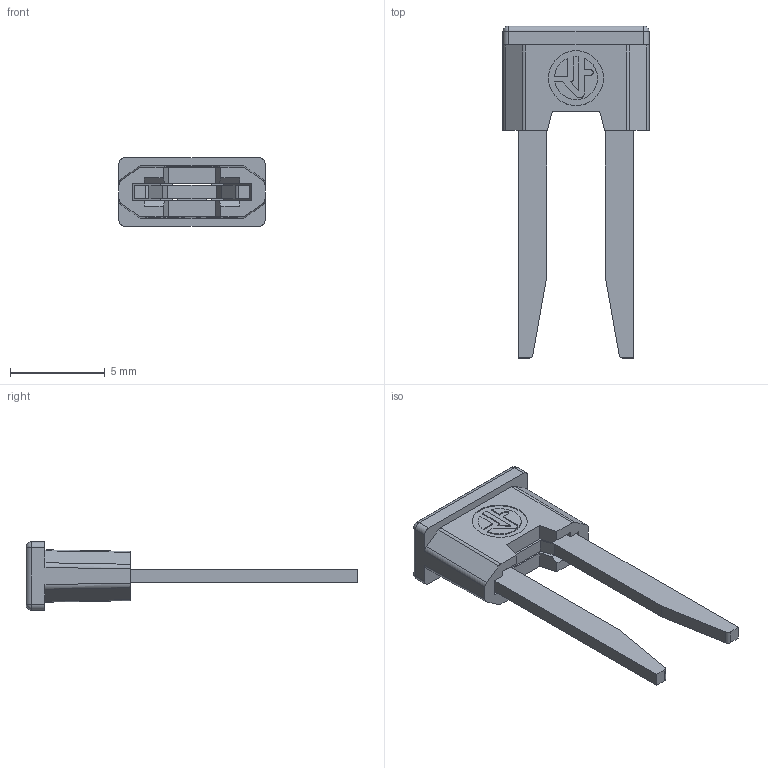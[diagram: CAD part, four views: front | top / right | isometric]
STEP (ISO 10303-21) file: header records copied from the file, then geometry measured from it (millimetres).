
FILE_DESCRIPTION(/* description */ (''),/* implementation_level */ '2;1');
FILE_NAME(/* name */ 'C:\Desktop\FIERA\Ponticello 094.42 (2 Poli Passo 4.stp',/* time_stamp */ '2015-03-05T15:08:36+01:00',/* author */ ('marco'),/* organization */ (''),/* preprocessor_version */ 'ST-DEVELOPER v15.6',/* originating_system */ 'Autodesk Inventor 2015',/* authorisation */ '');
FILE_SCHEMA (('AUTOMOTIVE_DESIGN { 1 0 10303 214 3 1 1 }'));
Length unit declared in the file: centimetre
Products named in the file (1): Pettine 2 Poli Passo 4.6mm
Bounding box: 7.7 x 17.5 x 3.6 mm (x, y, z)
Volume: 115.7 mm3; surface area: 362.8 mm2
Topology: 2 solids, 2 shells, 193 faces, 513 edges, 338 vertices
Faces by surface type: plane 127, bspline 35, cylinder 27, sphere 4
Full cylindrical faces by diameter (mm): 2.899 x1
Entity records: 6356 total; most frequent: CARTESIAN_POINT 1511, ORIENTED_EDGE 1024, DIRECTION 814, EDGE_CURVE 512, LINE 388, VECTOR 388, VERTEX_POINT 338, AXIS2_PLACEMENT_3D 213
